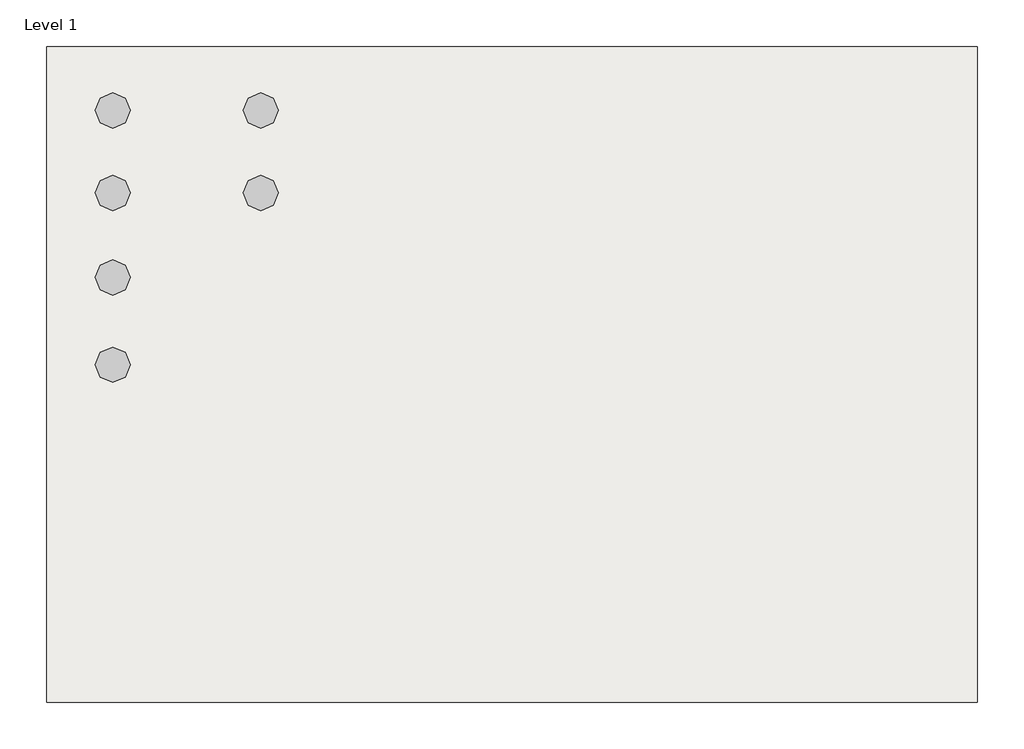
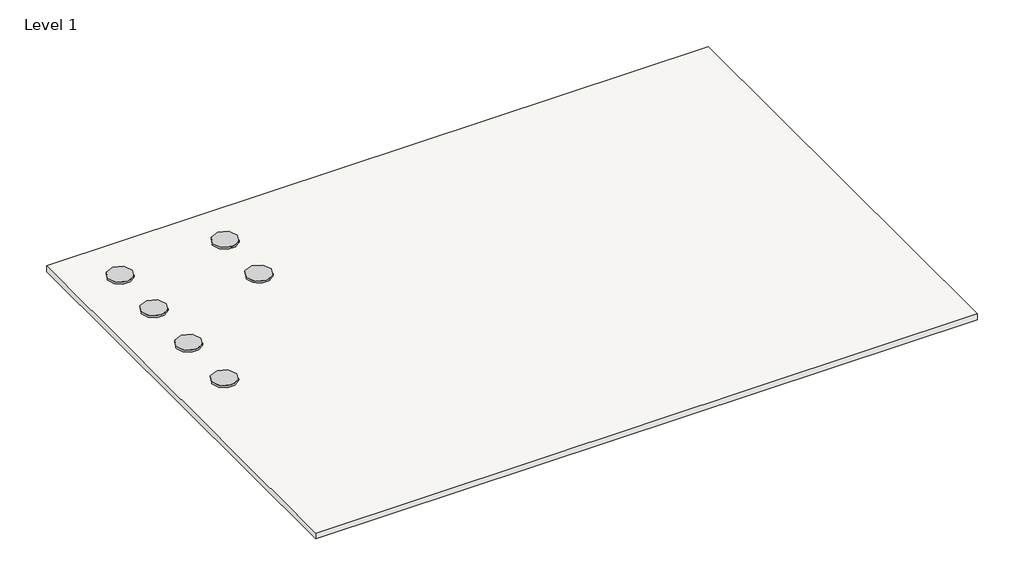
# One storey, incomplete: 6 proxies, 1 slab.
"""IFC4 building model written with IfcOpenShell, lengths in millimetres."""

from ifc_helpers import new_model, si_unit, frame, origin, place, context, project, spatial, polyline, outline, extrude, transform, mapped, element, save
from components import materialmodel_materialmodel_f1c05be1

model = new_model("IFC4")

# Units and contexts
model_context = context("Model", 3, world=origin())
ifc_project = project(units=[si_unit("LENGTHUNIT", "METRE", prefix="MILLI")], contexts=[model_context])

# Site, building, storey
site = spatial("IfcSite", under=ifc_project)
building = spatial("IfcBuilding", under=site)
storey = spatial("IfcBuildingStorey", under=building, Name="Level 1", Elevation=0.0)

# Proxies
placement = place(None, origin())
materialmodel_materialmodel_shape = materialmodel_materialmodel_f1c05be1(model_context)
element("IfcBuildingElementProxy", 1, Name="MaterialModel : MaterialModel", ObjectType="MaterialModel : MaterialModel", at=placement, inside=storey, context=model_context, shape_type="MappedRepresentation", body=[
    mapped(materialmodel_materialmodel_shape, transform((-13116.1573883, 7584.9688133, 0.0), x_axis=(1.0, 0.0, 0.0), y_axis=(0.0, 1.0, 0.0), z_axis=(0.0, 0.0, 1.0))),
])
element("IfcBuildingElementProxy", 2, Name="MaterialModel : MaterialModel", ObjectType="MaterialModel : MaterialModel", at=placement, inside=storey, context=model_context, shape_type="MappedRepresentation", body=[
    mapped(materialmodel_materialmodel_shape, transform((-13116.1573883, 8993.991817, 0.0), x_axis=(1.0, 0.0, 0.0), y_axis=(0.0, 1.0, 0.0), z_axis=(0.0, 0.0, 1.0))),
])
element("IfcBuildingElementProxy", 3, Name="MaterialModel : MaterialModel", ObjectType="MaterialModel : MaterialModel", at=placement, inside=storey, context=model_context, shape_type="MappedRepresentation", body=[
    mapped(materialmodel_materialmodel_shape, transform((-15639.3863235, 7584.9688133, 0.0), x_axis=(1.0, 0.0, 0.0), y_axis=(0.0, 1.0, 0.0), z_axis=(0.0, 0.0, 1.0))),
])
element("IfcBuildingElementProxy", 4, Name="MaterialModel : MaterialModel", ObjectType="MaterialModel : MaterialModel", at=placement, inside=storey, context=model_context, shape_type="MappedRepresentation", body=[
    mapped(materialmodel_materialmodel_shape, transform((-15639.3863235, 6142.3179341, 0.0), x_axis=(1.0, 0.0, 0.0), y_axis=(0.0, 1.0, 0.0), z_axis=(0.0, 0.0, 1.0))),
])
element("IfcBuildingElementProxy", 5, Name="MaterialModel : MaterialModel", ObjectType="MaterialModel : MaterialModel", at=placement, inside=storey, context=model_context, shape_type="MappedRepresentation", body=[
    mapped(materialmodel_materialmodel_shape, transform((-15639.3863235, 8993.991817, 0.0), x_axis=(1.0, 0.0, 0.0), y_axis=(0.0, 1.0, 0.0), z_axis=(0.0, 0.0, 1.0))),
])
element("IfcBuildingElementProxy", 6, Name="MaterialModel : MaterialModel", ObjectType="MaterialModel : MaterialModel", at=placement, inside=storey, context=model_context, shape_type="MappedRepresentation", body=[
    mapped(materialmodel_materialmodel_shape, transform((-15639.3863235, 4653.0424657, 0.0), x_axis=(1.0, 0.0, 0.0), y_axis=(0.0, 1.0, 0.0), z_axis=(0.0, 0.0, 1.0))),
])

# Slab
element("IfcSlab", 7, ObjectType="Generic 150mm", at=placement, inside=storey, context=model_context, shape_type="SweptSolid", body=[
    extrude(outline(polyline([(-872.1900855, 10086.0981081), (-872.1900855, -1113.9018919), (-16772.1900855, -1113.9018919), (-16772.1900855, 10086.0981081), (-872.1900855, 10086.0981081)])), frame((0.0, 0.0, -150.0), z_axis=(0.0, 0.0, 1.0), x_axis=(1.0, 0.0, 0.0)), (0.0, 0.0, 1.0), 150.0),
])

save(model, "model.ifc")
